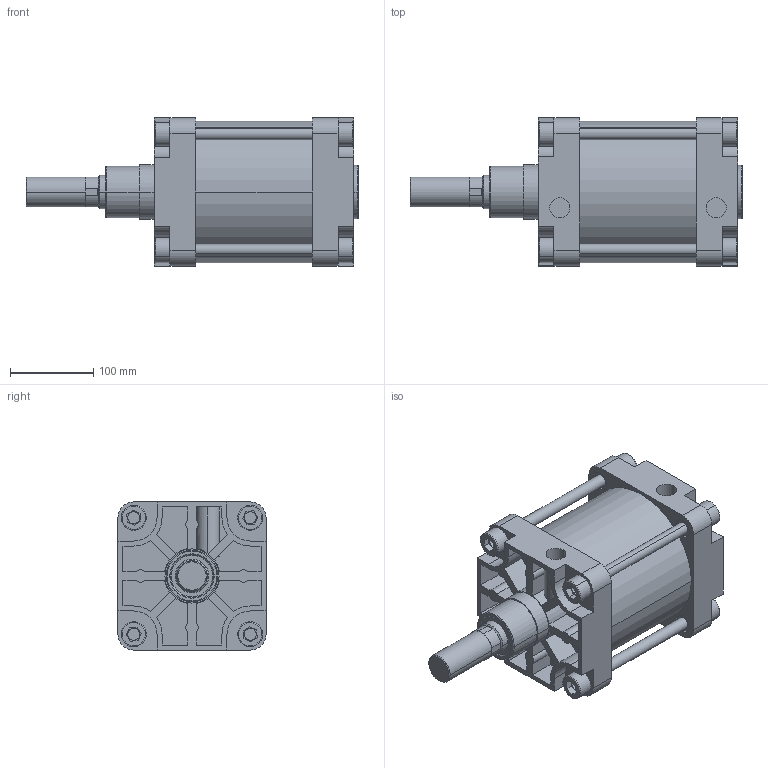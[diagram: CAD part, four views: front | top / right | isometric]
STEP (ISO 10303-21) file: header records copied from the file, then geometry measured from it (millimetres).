
FILE_DESCRIPTION(('CATIA V5 STEP Exchange'),'2;1');
FILE_NAME('D:\stp file for catalog\PNC\160\PNC 160-40-60.stp','2015-10-14T09:27:18+00:00',('none'),('none'),'Version 5-6 Release 2012','CATIA V5 STEP AP203','none');
FILE_SCHEMA(('CONFIG_CONTROL_DESIGN'));
Length unit declared in the file: millimetre
Products named in the file (1): PNC 160-40-60-00
Assembly tree (2 placements, depth 2):
  PNC 160-40-60-00
    #58
    #14957
Bounding box: 399 x 178 x 178 mm (x, y, z)
Volume: 4503588.6 mm3; surface area: 657467.7 mm2
Topology: 6 solids, 6 shells, 583 faces, 1428 edges, 932 vertices
Faces by surface type: plane 349, cylinder 186, torus 26, extrusion 16, cone 6
Entity records: 15847 total; most frequent: CARTESIAN_POINT 3275, ORIENTED_EDGE 2856, DIRECTION 1940, EDGE_CURVE 1428, VERTEX_POINT 932, VECTOR 930, LINE 914, AXIS2_PLACEMENT_3D 715
